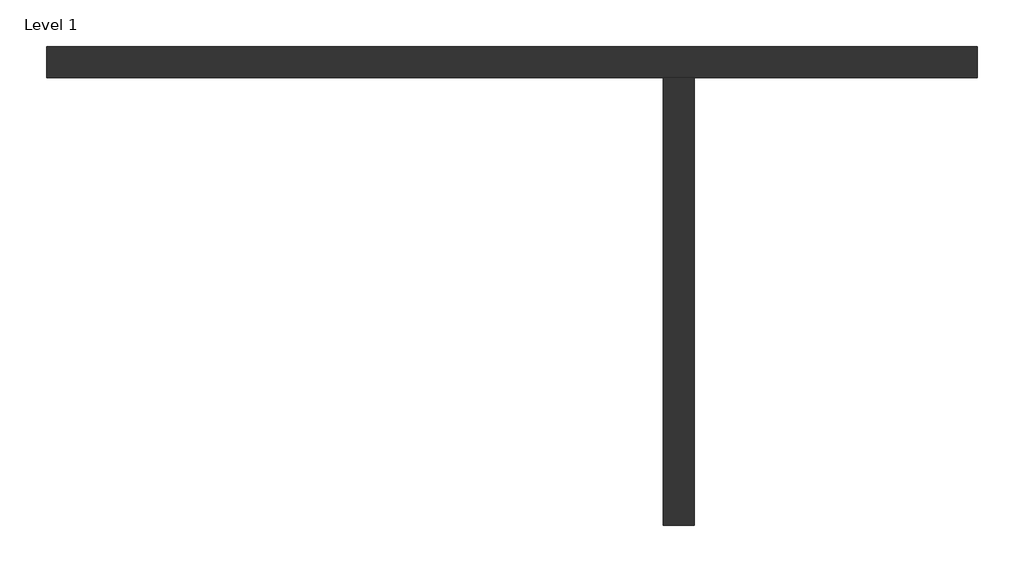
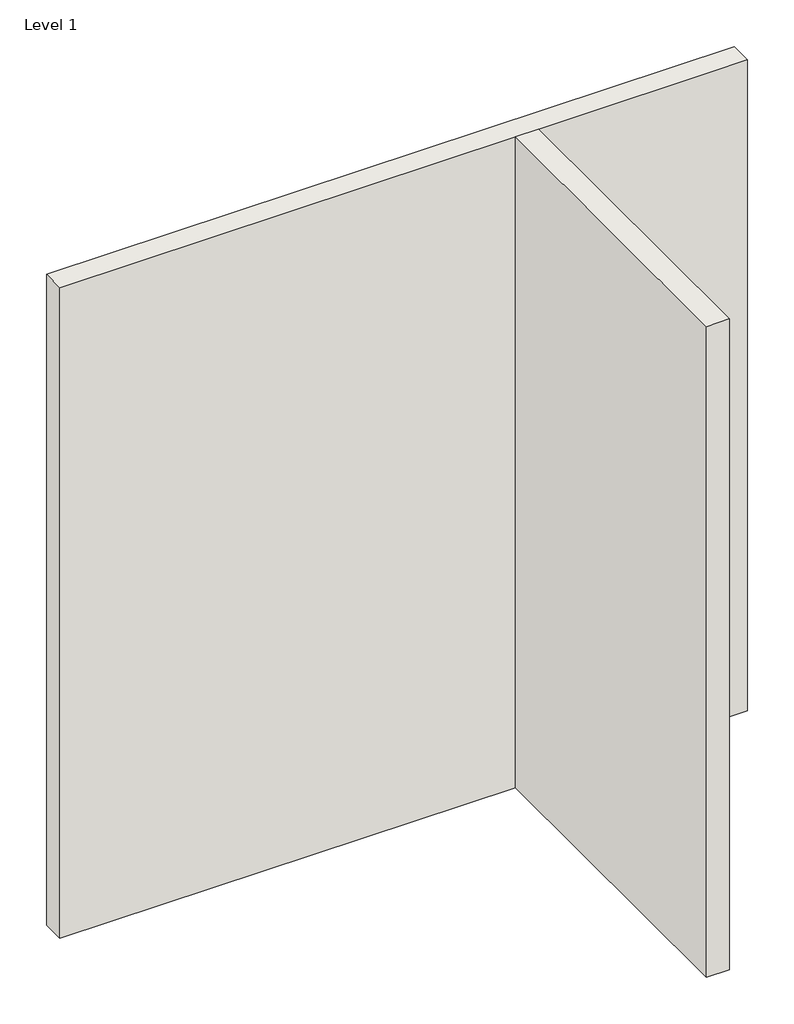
# One storey: 2 walls.
"""IFC4 building model written with IfcOpenShell, lengths in millimetres."""

import ifcopenshell
import ifcopenshell.guid

model = None  # the IFC model being written
_history = None  # IfcOwnerHistory: only IFC2X3 demands one
_inside = {}  # id of a spatial element -> (the spatial element, [elements in it])
_under = {}  # id of a project, library or spatial element -> (it, [spatial elements below it])
_declared = {}  # id of a project -> (the project, [libraries it declares])
_typed = {}  # id of a type object -> (the type object, [elements of that type])
_made_of = {}  # id of a material, layer set ... -> (it, [elements and type objects made of it])


def new_model(schema):
    """Start an empty IFC model of exactly this schema.

    Asked for "IFC4X3", IfcOpenShell would pick the latest addendum, in which some entities
    have other attributes; the version numbers below select the first issue.
    IFC2X3 requires an IfcOwnerHistory on every rooted entity: one is made here for all.
    """
    global model, _history
    if schema == "IFC4X3":
        model = ifcopenshell.file(schema_version=(4, 3, 0, 0))
    else:
        model = ifcopenshell.file(schema=schema)
    _inside.clear()
    _under.clear()
    _declared.clear()
    _typed.clear()
    _made_of.clear()
    _history = None
    if model.schema == "IFC2X3":
        org = make("IfcOrganization", Name="unknown")
        user = make(
            "IfcPersonAndOrganization",
            ThePerson=make("IfcPerson", FamilyName="unknown"),
            TheOrganization=org,
        )
        app = make(
            "IfcApplication",
            ApplicationDeveloper=org,
            Version="unknown",
            ApplicationFullName="unknown",
            ApplicationIdentifier="unknown",
        )
        _history = make(
            "IfcOwnerHistory",
            OwningUser=user,
            OwningApplication=app,
            ChangeAction="ADDED",
            CreationDate=0,
        )
    return model


def make(cls, **values):
    """One entity of the class cls with the attributes given. An attribute that is None is left unset."""
    return model.create_entity(
        cls, **{name: value for name, value in values.items() if value is not None}
    )


def rooted(cls, **values):
    """An entity with a GlobalId (a new one), such as an element, a storey or a relation."""
    return make(cls, GlobalId=ifcopenshell.guid.new(), OwnerHistory=_history, **values)


def si_unit(unit_type, name, prefix=None):
    """IfcSIUnit, for example si_unit("LENGTHUNIT", "METRE", prefix="MILLI")."""
    return make("IfcSIUnit", UnitType=unit_type, Prefix=prefix, Name=name)


def assignment(units):
    """IfcUnitAssignment: the units of a project."""
    return None if units is None else make("IfcUnitAssignment", Units=units)


def point(xyz):
    """IfcCartesianPoint."""
    return None if xyz is None else make("IfcCartesianPoint", Coordinates=xyz)


def direction(xyz):
    """IfcDirection."""
    return None if xyz is None else make("IfcDirection", DirectionRatios=xyz)


def frame(location, z_axis=None, x_axis=None):
    """IfcAxis2Placement3D, a coordinate frame: its origin and axes. An axis left out is left unset."""
    return make(
        "IfcAxis2Placement3D",
        Location=point(location),
        Axis=direction(z_axis),
        RefDirection=direction(x_axis),
    )


def origin():
    """The frame at (0, 0, 0) with its axes left unset."""
    return frame((0.0, 0.0, 0.0))


def origin_with_axes():
    """The frame at (0, 0, 0) with the z axis (0, 0, 1) and the x axis (1, 0, 0) written out."""
    return frame((0.0, 0.0, 0.0), z_axis=(0.0, 0.0, 1.0), x_axis=(1.0, 0.0, 0.0))


def place(relative_to, where):
    """IfcLocalPlacement: puts the frame where relative to a parent placement (None: the world)."""
    return make(
        "IfcLocalPlacement", PlacementRelTo=relative_to, RelativePlacement=where
    )


def context(
    kind, dimensions, precision=None, world=None, true_north=None, identifier=None
):
    """IfcGeometricRepresentationContext, for example the 3D "Model" context."""
    return make(
        "IfcGeometricRepresentationContext",
        ContextIdentifier=identifier,
        ContextType=kind,
        CoordinateSpaceDimension=dimensions,
        Precision=precision,
        WorldCoordinateSystem=world,
        TrueNorth=true_north,
    )


def project(units=None, contexts=None):
    """IfcProject with its units and contexts."""
    return rooted(
        "IfcProject",
        Name="project",
        RepresentationContexts=contexts,
        UnitsInContext=assignment(units),
    )


def spatial(cls, under=None, at=None, **own):
    """A site, building, storey or space (cls), placed at a placement, below another one or the project."""
    s = rooted(cls, ObjectPlacement=at, **own)
    if under is not None:
        _under.setdefault(under.id(), (under, []))[1].append(s)
    return s


def polyline(points):
    """IfcPolyline through the points."""
    return make("IfcPolyline", Points=[point(p) for p in points])


def outline(outer, holes=None, kind="AREA"):
    """IfcArbitraryClosedProfileDef: a profile drawn as a closed curve; with holes, ...WithVoids."""
    if holes is None:
        return make("IfcArbitraryClosedProfileDef", ProfileType=kind, OuterCurve=outer)
    return make(
        "IfcArbitraryProfileDefWithVoids",
        ProfileType=kind,
        OuterCurve=outer,
        InnerCurves=holes,
    )


def extrude(swept, where, along, depth):
    """IfcExtrudedAreaSolid: the profile swept, set in the frame where, extruded along a direction by depth."""
    return make(
        "IfcExtrudedAreaSolid",
        SweptArea=swept,
        Position=where,
        ExtrudedDirection=direction(along),
        Depth=depth,
    )


def faces_of(points, faces, orient=None, outer=None):
    """IfcFace entities. A face is a list of loops; a loop is a list of indices into points, from 0.

    orient and outer hold one flag for each loop. By default every Orientation is true, the
    first loop of a face is its IfcFaceOuterBound and the others are IfcFaceBound.
    """
    made = []
    for i, loops in enumerate(faces):
        bounds = []
        for j, loop in enumerate(loops):
            is_outer = j == 0 if outer is None else outer[i][j]
            bounds.append(
                make(
                    "IfcFaceOuterBound" if is_outer else "IfcFaceBound",
                    Bound=make("IfcPolyLoop", Polygon=[points[k] for k in loop]),
                    Orientation=True if orient is None else orient[i][j],
                )
            )
        made.append(make("IfcFace", Bounds=bounds))
    return made


def faceted_brep(points, faces, orient=None, outer=None, voids=None):
    """IfcFacetedBrep: a solid bounded by flat faces; with voids (closed shells), ...WithVoids."""
    shared = [point(p) for p in points]
    hull = make("IfcClosedShell", CfsFaces=faces_of(shared, faces, orient, outer))
    if voids is None:
        return make("IfcFacetedBrep", Outer=hull)
    return make(
        "IfcFacetedBrepWithVoids",
        Outer=hull,
        Voids=[
            make(cls, CfsFaces=faces_of(shared, fs, o, b)) for cls, fs, o, b in voids
        ],
    )


def shape(context_of_items, identifier, shape_type, items):
    """IfcShapeRepresentation: the items that make up one representation, for example the "Body"."""
    return make(
        "IfcShapeRepresentation",
        ContextOfItems=context_of_items,
        RepresentationIdentifier=identifier,
        RepresentationType=shape_type,
        Items=items,
    )


def made_of(thing, what):
    """Note that an element or type object is made of a material, layer set ...; save() writes the relation."""
    if what is not None:
        _made_of.setdefault(what.id(), (what, []))[1].append(thing)
    return thing


def element(
    cls,
    number,
    at=None,
    inside=None,
    cuts=None,
    type_object=None,
    material=None,
    context=None,
    identifier="Body",
    shape_type=None,
    held_by="IfcProductDefinitionShape",
    body=None,
    shapes=None,
    **own,
):
    """One element of the class cls, such as IfcWall. Its Tag is "e" and its number.

    at: its placement. inside: the storey or other place that contains it. cuts: it is an
    opening in that element (IfcRelVoidsElement). A single representation is given by context,
    identifier, shape_type and body (its items); several are given by shapes. held_by: the class
    of the entity that holds the representations. save() writes the other relations.
    """
    e = rooted(cls, Tag="e%d" % number, ObjectPlacement=at, **own)
    if body is not None:
        shapes = [shape(context, identifier, shape_type, body)]
    if shapes is not None:
        e.Representation = make(held_by, Representations=shapes)
    if inside is not None:
        _inside.setdefault(inside.id(), (inside, []))[1].append(e)
    if cuts is not None:
        rooted(
            "IfcRelVoidsElement", RelatingBuildingElement=cuts, RelatedOpeningElement=e
        )
    if type_object is not None:
        _typed.setdefault(type_object.id(), (type_object, []))[1].append(e)
    return made_of(e, material)


def aggregate(whole, parts):
    """IfcRelAggregates: a whole, such as a stair, and the parts it consists of."""
    return rooted("IfcRelAggregates", RelatingObject=whole, RelatedObjects=parts)


def save(model, path):
    """Write the relations noted so far, then the file.

    IfcRelAggregates (storeys below a building ...), IfcRelContainedInSpatialStructure (elements
    in a storey), IfcRelDefinesByType, IfcRelAssociatesMaterial and IfcRelDeclares: one each for
    every whole, place, type object, material and project.
    """
    for whole, parts in _under.values():
        aggregate(whole, parts)
    for where, things in _inside.values():
        rooted(
            "IfcRelContainedInSpatialStructure",
            RelatedElements=things,
            RelatingStructure=where,
        )
    for kind, things in _typed.values():
        rooted("IfcRelDefinesByType", RelatedObjects=things, RelatingType=kind)
    for what, things in _made_of.values():
        rooted("IfcRelAssociatesMaterial", RelatedObjects=things, RelatingMaterial=what)
    for by, libraries in _declared.values():
        rooted("IfcRelDeclares", RelatingContext=by, RelatedDefinitions=libraries)
    model.write(path)


model = new_model("IFC4")

# Units and contexts
model_context = context("Model", 3, world=origin())
ifc_project = project(units=[si_unit("LENGTHUNIT", "METRE", prefix="MILLI")], contexts=[model_context])

# Site, building, storey
site = spatial("IfcSite", under=ifc_project)
building = spatial("IfcBuilding", under=site)
storey = spatial("IfcBuildingStorey", under=building, Name="Level 1", Elevation=0.0)

# Walls
placement = place(None, origin())
element("IfcWall", 1, ObjectType="Generic - 8\"", at=placement, inside=storey, context=model_context, shape_type="Brep", body=[
    faceted_brep([(-2311.6602902, -741.8838621, 0.0), (1726.9397098, -741.8838621, 0.0), (1930.1397098, -741.8838621, 0.0), (3784.3397098, -741.8838621, 0.0), (3784.3397098, -741.8838621, 6096.0), (1930.1397098, -741.8838621, 6096.0), (1726.9397098, -741.8838621, 6096.0), (-2311.6602902, -741.8838621, 6096.0), (-2311.6602902, -538.6838621, 0.0), (-2311.6602902, -538.6838621, 6096.0), (3784.3397098, -538.6838621, 6096.0), (3784.3397098, -538.6838621, 0.0)], [[[0, 1, 2, 3, 4, 5, 6, 7]], [[8, 9, 10, 11]], [[3, 2, 1, 0, 8, 11]], [[4, 3, 11, 10]], [[7, 6, 5, 4, 10, 9]], [[0, 7, 9, 8]]]),
])
element("IfcWall", 2, ObjectType="Generic - 8\"", at=placement, inside=storey, context=model_context, shape_type="SweptSolid", body=[
    extrude(outline(polyline([(1726.9397098, -3675.5838621), (1726.9397098, -741.8838621), (1930.1397098, -741.8838621), (1930.1397098, -3675.5838621), (1726.9397098, -3675.5838621)])), origin_with_axes(), (0.0, 0.0, 1.0), 6096.0),
])

save(model, "model.ifc")
